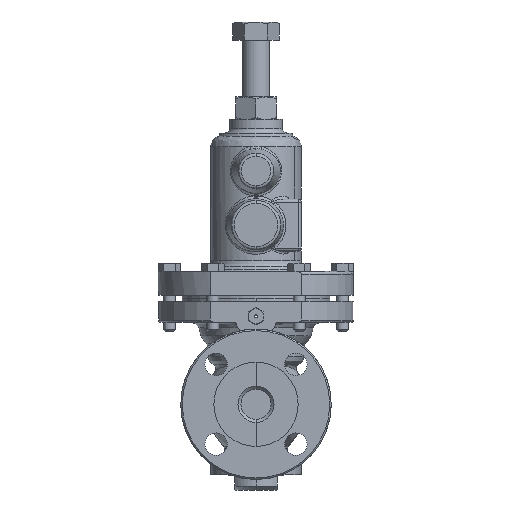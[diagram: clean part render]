
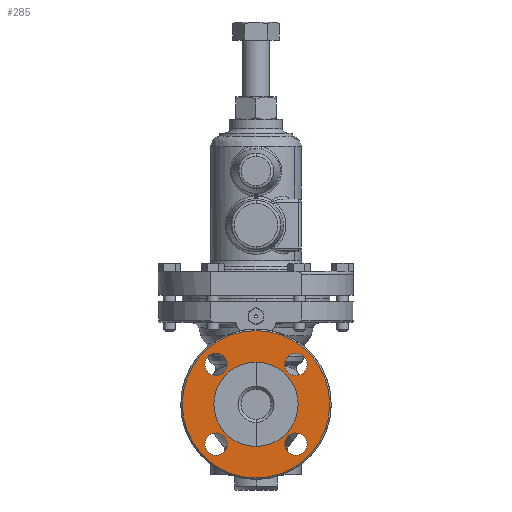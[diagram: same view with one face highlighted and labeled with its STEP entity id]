
A CAD part, left-side view. The second image highlights one B-rep face of the part: STEP entity #285.
In plain terms, the highlighted planar face has unit normal (-1, 0, 0).
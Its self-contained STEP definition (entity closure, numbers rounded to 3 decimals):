
#285=ADVANCED_FACE('',(#2018,#2019,#2020,#2021,#2022,#2023),#2017,.T.);
#2017=PLANE('',#7898);
#2018=FACE_OUTER_BOUND('',#7899,.T.);
#2019=FACE_BOUND('',#7900,.T.);
#2020=FACE_BOUND('',#7901,.T.);
#2021=FACE_BOUND('',#7902,.T.);
#2022=FACE_BOUND('',#7903,.T.);
#2023=FACE_BOUND('',#7904,.T.);
#7895=CARTESIAN_POINT('',(-74.,-94.87,-108.));
#7896=DIRECTION('',(-1.,0.,0.));
#7897=DIRECTION('',(0.,0.,1.));
#7898=AXIS2_PLACEMENT_3D('',#7895,#7896,#7897);
#7899=EDGE_LOOP('',(#18325,#18326));
#7900=EDGE_LOOP('',(#18327,#18328));
#7901=EDGE_LOOP('',(#18329,#18330));
#7902=EDGE_LOOP('',(#18331,#18332));
#7903=EDGE_LOOP('',(#18333,#18334));
#7904=EDGE_LOOP('',(#18335,#18336));
#18325=ORIENTED_EDGE('',*,*,#20614,.T.);
#18326=ORIENTED_EDGE('',*,*,#20615,.T.);
#18327=ORIENTED_EDGE('',*,*,#20616,.T.);
#18328=ORIENTED_EDGE('',*,*,#20617,.T.);
#18329=ORIENTED_EDGE('',*,*,#20618,.T.);
#18330=ORIENTED_EDGE('',*,*,#20619,.T.);
#18331=ORIENTED_EDGE('',*,*,#20620,.T.);
#18332=ORIENTED_EDGE('',*,*,#20621,.T.);
#18333=ORIENTED_EDGE('',*,*,#20622,.F.);
#18334=ORIENTED_EDGE('',*,*,#20623,.F.);
#18335=ORIENTED_EDGE('',*,*,#20624,.T.);
#18336=ORIENTED_EDGE('',*,*,#20625,.T.);
#20614=EDGE_CURVE('',#24396,#24397,#24398,.T.);
#20615=EDGE_CURVE('',#24397,#24396,#24404,.T.);
#20616=EDGE_CURVE('',#24410,#24411,#24412,.T.);
#20617=EDGE_CURVE('',#24411,#24410,#24418,.T.);
#20618=EDGE_CURVE('',#24424,#24425,#24426,.T.);
#20619=EDGE_CURVE('',#24425,#24424,#24432,.T.);
#20620=EDGE_CURVE('',#24438,#24439,#24440,.T.);
#20621=EDGE_CURVE('',#24439,#24438,#24446,.T.);
#20622=EDGE_CURVE('',#24452,#24453,#24454,.T.);
#20623=EDGE_CURVE('',#24453,#24452,#24460,.T.);
#20624=EDGE_CURVE('',#24466,#24467,#24468,.T.);
#20625=EDGE_CURVE('',#24467,#24466,#24474,.T.);
#24396=VERTEX_POINT('',#33161);
#24397=VERTEX_POINT('',#33162);
#24398=CIRCLE('',#33166,49.);
#24404=CIRCLE('',#33170,49.);
#24410=VERTEX_POINT('',#33171);
#24411=VERTEX_POINT('',#33172);
#24412=CIRCLE('',#33176,7.5);
#24418=CIRCLE('',#33180,7.5);
#24424=VERTEX_POINT('',#33181);
#24425=VERTEX_POINT('',#33182);
#24426=CIRCLE('',#33186,7.5);
#24432=CIRCLE('',#33190,7.5);
#24438=VERTEX_POINT('',#33191);
#24439=VERTEX_POINT('',#33192);
#24440=CIRCLE('',#33196,7.5);
#24446=CIRCLE('',#33200,7.5);
#24452=VERTEX_POINT('',#33201);
#24453=VERTEX_POINT('',#33202);
#24454=CIRCLE('',#33206,28.);
#24460=CIRCLE('',#33210,28.);
#24466=VERTEX_POINT('',#33211);
#24467=VERTEX_POINT('',#33212);
#24468=CIRCLE('',#33216,7.5);
#24474=CIRCLE('',#33220,7.5);
#33161=CARTESIAN_POINT('',(-74.,0.,49.));
#33162=CARTESIAN_POINT('',(-74.,0.,-49.));
#33163=CARTESIAN_POINT('',(-74.,0.,0.));
#33164=DIRECTION('',(-1.,0.,0.));
#33165=DIRECTION('',(0.,0.,1.));
#33166=AXIS2_PLACEMENT_3D('',#33163,#33164,#33165);
#33167=CARTESIAN_POINT('',(-74.,0.,0.));
#33168=DIRECTION('',(-1.,0.,0.));
#33169=DIRECTION('',(0.,0.,1.));
#33170=AXIS2_PLACEMENT_3D('',#33167,#33168,#33169);
#33171=CARTESIAN_POINT('',(-74.,-26.517,-19.016));
#33172=CARTESIAN_POINT('',(-74.,-26.517,-34.016));
#33173=CARTESIAN_POINT('',(-74.,-26.517,-26.516));
#33174=DIRECTION('',(1.,0.,0.));
#33175=DIRECTION('',(0.,0.,1.));
#33176=AXIS2_PLACEMENT_3D('',#33173,#33174,#33175);
#33177=CARTESIAN_POINT('',(-74.,-26.517,-26.516));
#33178=DIRECTION('',(1.,0.,0.));
#33179=DIRECTION('',(0.,0.,1.));
#33180=AXIS2_PLACEMENT_3D('',#33177,#33178,#33179);
#33181=CARTESIAN_POINT('',(-74.,26.517,-19.016));
#33182=CARTESIAN_POINT('',(-74.,26.517,-34.016));
#33183=CARTESIAN_POINT('',(-74.,26.517,-26.516));
#33184=DIRECTION('',(1.,0.,0.));
#33185=DIRECTION('',(0.,0.,1.));
#33186=AXIS2_PLACEMENT_3D('',#33183,#33184,#33185);
#33187=CARTESIAN_POINT('',(-74.,26.517,-26.516));
#33188=DIRECTION('',(1.,0.,0.));
#33189=DIRECTION('',(0.,0.,1.));
#33190=AXIS2_PLACEMENT_3D('',#33187,#33188,#33189);
#33191=CARTESIAN_POINT('',(-74.,26.516,34.017));
#33192=CARTESIAN_POINT('',(-74.,26.516,19.017));
#33193=CARTESIAN_POINT('',(-74.,26.516,26.517));
#33194=DIRECTION('',(1.,0.,0.));
#33195=DIRECTION('',(0.,0.,1.));
#33196=AXIS2_PLACEMENT_3D('',#33193,#33194,#33195);
#33197=CARTESIAN_POINT('',(-74.,26.516,26.517));
#33198=DIRECTION('',(1.,0.,0.));
#33199=DIRECTION('',(0.,0.,1.));
#33200=AXIS2_PLACEMENT_3D('',#33197,#33198,#33199);
#33201=CARTESIAN_POINT('',(-74.,0.,-28.));
#33202=CARTESIAN_POINT('',(-74.,0.,28.));
#33203=CARTESIAN_POINT('',(-74.,0.,0.));
#33204=DIRECTION('',(-1.,0.,0.));
#33205=DIRECTION('',(0.,0.,1.));
#33206=AXIS2_PLACEMENT_3D('',#33203,#33204,#33205);
#33207=CARTESIAN_POINT('',(-74.,0.,0.));
#33208=DIRECTION('',(-1.,0.,0.));
#33209=DIRECTION('',(0.,0.,1.));
#33210=AXIS2_PLACEMENT_3D('',#33207,#33208,#33209);
#33211=CARTESIAN_POINT('',(-74.,-26.516,34.017));
#33212=CARTESIAN_POINT('',(-74.,-26.516,19.017));
#33213=CARTESIAN_POINT('',(-74.,-26.516,26.517));
#33214=DIRECTION('',(1.,0.,0.));
#33215=DIRECTION('',(0.,0.,1.));
#33216=AXIS2_PLACEMENT_3D('',#33213,#33214,#33215);
#33217=CARTESIAN_POINT('',(-74.,-26.516,26.517));
#33218=DIRECTION('',(1.,0.,0.));
#33219=DIRECTION('',(0.,0.,1.));
#33220=AXIS2_PLACEMENT_3D('',#33217,#33218,#33219);
